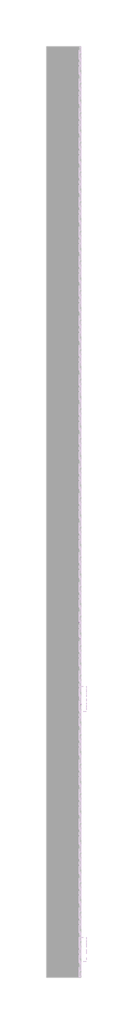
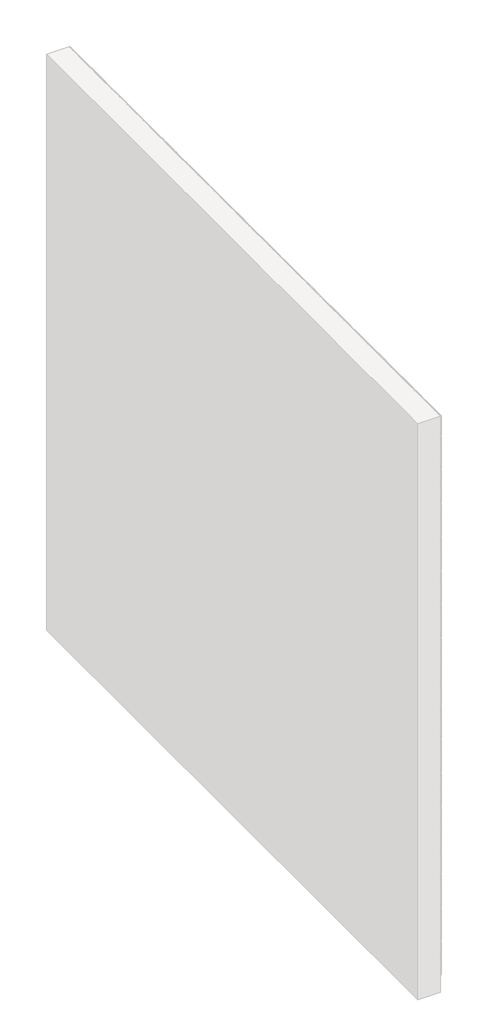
# One storey, part 82 of 121: 145 proxies.
"""IFC4 building model written with IfcOpenShell, lengths in millimetres."""

from ifc_helpers import new_model, si_unit, origin, place, context, project, spatial, transform, mapped, element, save
from components import generic_models_b2b2c5c1, generic_models_9bf73f6f, generic_models_5d175859

model = new_model("IFC4")

# Units and contexts
model_context = context("Model", 3, world=origin())
ifc_project = project(units=[si_unit("LENGTHUNIT", "METRE", prefix="MILLI")], contexts=[model_context])

# Site, building, storey
site = spatial("IfcSite", under=ifc_project)
building = spatial("IfcBuilding", under=site)
storey = spatial("IfcBuildingStorey", under=building, Name="PORTOBELLO - SHOWROOM", Elevation=0.0)

# Proxies
placement = place(None, origin())
generic_models_shape = generic_models_b2b2c5c1(model_context)
element("IfcBuildingElementProxy", 1, Name="PBSHOP - CUBICA PISTACHE 4,8X8,3 : CUBICA PISTACHE - POSIÇÃO 01", ObjectType="PBSHOP - CUBICA PISTACHE 4,8X8,3 : CUBICA PISTACHE - POSIÇÃO 01", at=placement, inside=storey, context=model_context, shape_type="MappedRepresentation", body=[
    mapped(generic_models_shape, transform((150369.5341846, 13069.0655533, 2249.5920413), x_axis=(0.0, 1.0, 0.0), y_axis=(0.0, 0.0, 1.0), z_axis=(1.0, 0.0, 0.0))),
])
element("IfcBuildingElementProxy", 2, Name="PBSHOP - CUBICA PISTACHE 4,8X8,3 : CUBICA PISTACHE - POSIÇÃO 01", ObjectType="PBSHOP - CUBICA PISTACHE 4,8X8,3 : CUBICA PISTACHE - POSIÇÃO 01", at=placement, inside=storey, context=model_context, shape_type="MappedRepresentation", body=[
    mapped(generic_models_shape, transform((150369.5341846, 13159.9048225, 2249.5920413), x_axis=(0.0, 1.0, 0.0), y_axis=(0.0, 0.0, 1.0), z_axis=(1.0, 0.0, 0.0))),
])
element("IfcBuildingElementProxy", 3, Name="PBSHOP - CUBICA PISTACHE 4,8X8,3 : CUBICA PISTACHE - POSIÇÃO 01", ObjectType="PBSHOP - CUBICA PISTACHE 4,8X8,3 : CUBICA PISTACHE - POSIÇÃO 01", at=placement, inside=storey, context=model_context, shape_type="MappedRepresentation", body=[
    mapped(generic_models_shape, transform((150369.5341846, 13250.7440918, 2249.5920413), x_axis=(0.0, 1.0, 0.0), y_axis=(0.0, 0.0, 1.0), z_axis=(1.0, 0.0, 0.0))),
])
element("IfcBuildingElementProxy", 4, Name="PBSHOP - CUBICA PISTACHE 4,8X8,3 : CUBICA PISTACHE - POSIÇÃO 01", ObjectType="PBSHOP - CUBICA PISTACHE 4,8X8,3 : CUBICA PISTACHE - POSIÇÃO 01", at=placement, inside=storey, context=model_context, shape_type="MappedRepresentation", body=[
    mapped(generic_models_shape, transform((150369.5341846, 13341.583361, 2249.5920413), x_axis=(0.0, 1.0, 0.0), y_axis=(0.0, 0.0, 1.0), z_axis=(1.0, 0.0, 0.0))),
])
element("IfcBuildingElementProxy", 5, Name="PBSHOP - CUBICA PISTACHE 4,8X8,3 : CUBICA PISTACHE - POSIÇÃO 01", ObjectType="PBSHOP - CUBICA PISTACHE 4,8X8,3 : CUBICA PISTACHE - POSIÇÃO 01", at=placement, inside=storey, context=model_context, shape_type="MappedRepresentation", body=[
    mapped(generic_models_shape, transform((150369.5341846, 13432.4226303, 2249.5920413), x_axis=(0.0, 1.0, 0.0), y_axis=(0.0, 0.0, 1.0), z_axis=(1.0, 0.0, 0.0))),
])
element("IfcBuildingElementProxy", 6, Name="PBSHOP - CUBICA PISTACHE 4,8X8,3 : CUBICA PISTACHE - POSIÇÃO 01", ObjectType="PBSHOP - CUBICA PISTACHE 4,8X8,3 : CUBICA PISTACHE - POSIÇÃO 01", at=placement, inside=storey, context=model_context, shape_type="MappedRepresentation", body=[
    mapped(generic_models_shape, transform((150369.5341846, 13523.2618995, 2249.5920413), x_axis=(0.0, 1.0, 0.0), y_axis=(0.0, 0.0, 1.0), z_axis=(1.0, 0.0, 0.0))),
])
element("IfcBuildingElementProxy", 7, Name="PBSHOP - CUBICA PISTACHE 4,8X8,3 : CUBICA PISTACHE - POSIÇÃO 01", ObjectType="PBSHOP - CUBICA PISTACHE 4,8X8,3 : CUBICA PISTACHE - POSIÇÃO 01", at=placement, inside=storey, context=model_context, shape_type="MappedRepresentation", body=[
    mapped(generic_models_shape, transform((150369.5341846, 13614.1011688, 2249.5920413), x_axis=(0.0, 1.0, 0.0), y_axis=(0.0, 0.0, 1.0), z_axis=(1.0, 0.0, 0.0))),
])
element("IfcBuildingElementProxy", 8, Name="PBSHOP - CUBICA PISTACHE 4,8X8,3 : CUBICA PISTACHE - POSIÇÃO 01", ObjectType="PBSHOP - CUBICA PISTACHE 4,8X8,3 : CUBICA PISTACHE - POSIÇÃO 01", at=placement, inside=storey, context=model_context, shape_type="MappedRepresentation", body=[
    mapped(generic_models_shape, transform((150369.5341846, 13704.940438, 2249.5920413), x_axis=(0.0, 1.0, 0.0), y_axis=(0.0, 0.0, 1.0), z_axis=(1.0, 0.0, 0.0))),
])
element("IfcBuildingElementProxy", 9, Name="PBSHOP - CUBICA PISTACHE 4,8X8,3 : CUBICA PISTACHE - POSIÇÃO 01", ObjectType="PBSHOP - CUBICA PISTACHE 4,8X8,3 : CUBICA PISTACHE - POSIÇÃO 01", at=placement, inside=storey, context=model_context, shape_type="MappedRepresentation", body=[
    mapped(generic_models_shape, transform((150369.5341846, 13795.7797073, 2249.5920413), x_axis=(0.0, 1.0, 0.0), y_axis=(0.0, 0.0, 1.0), z_axis=(1.0, 0.0, 0.0))),
])
element("IfcBuildingElementProxy", 10, Name="PBSHOP - CUBICA PISTACHE 4,8X8,3 : CUBICA PISTACHE - POSIÇÃO 01", ObjectType="PBSHOP - CUBICA PISTACHE 4,8X8,3 : CUBICA PISTACHE - POSIÇÃO 01", at=placement, inside=storey, context=model_context, shape_type="MappedRepresentation", body=[
    mapped(generic_models_shape, transform((150369.5341846, 13886.6189765, 2249.5920413), x_axis=(0.0, 1.0, 0.0), y_axis=(0.0, 0.0, 1.0), z_axis=(1.0, 0.0, 0.0))),
])
element("IfcBuildingElementProxy", 11, Name="PBSHOP - CUBICA PISTACHE 4,8X8,3 : CUBICA PISTACHE - POSIÇÃO 01", ObjectType="PBSHOP - CUBICA PISTACHE 4,8X8,3 : CUBICA PISTACHE - POSIÇÃO 01", at=placement, inside=storey, context=model_context, shape_type="MappedRepresentation", body=[
    mapped(generic_models_shape, transform((150369.5341846, 13977.4582457, 2249.5920413), x_axis=(0.0, 1.0, 0.0), y_axis=(0.0, 0.0, 1.0), z_axis=(1.0, 0.0, 0.0))),
])
element("IfcBuildingElementProxy", 12, Name="PBSHOP - CUBICA PISTACHE 4,8X8,3 : CUBICA PISTACHE - POSIÇÃO 01", ObjectType="PBSHOP - CUBICA PISTACHE 4,8X8,3 : CUBICA PISTACHE - POSIÇÃO 01", at=placement, inside=storey, context=model_context, shape_type="MappedRepresentation", body=[
    mapped(generic_models_shape, transform((150369.5341846, 13023.6459187, 2328.5266797), x_axis=(0.0, 1.0, 0.0), y_axis=(0.0, 0.0, 1.0), z_axis=(1.0, 0.0, 0.0))),
])
element("IfcBuildingElementProxy", 13, Name="PBSHOP - CUBICA PISTACHE 4,8X8,3 : CUBICA PISTACHE - POSIÇÃO 01", ObjectType="PBSHOP - CUBICA PISTACHE 4,8X8,3 : CUBICA PISTACHE - POSIÇÃO 01", at=placement, inside=storey, context=model_context, shape_type="MappedRepresentation", body=[
    mapped(generic_models_shape, transform((150369.5341846, 13114.4851879, 2328.5266797), x_axis=(0.0, 1.0, 0.0), y_axis=(0.0, 0.0, 1.0), z_axis=(1.0, 0.0, 0.0))),
])
element("IfcBuildingElementProxy", 14, Name="PBSHOP - CUBICA PISTACHE 4,8X8,3 : CUBICA PISTACHE - POSIÇÃO 01", ObjectType="PBSHOP - CUBICA PISTACHE 4,8X8,3 : CUBICA PISTACHE - POSIÇÃO 01", at=placement, inside=storey, context=model_context, shape_type="MappedRepresentation", body=[
    mapped(generic_models_shape, transform((150369.5341846, 13205.3244572, 2328.5266797), x_axis=(0.0, 1.0, 0.0), y_axis=(0.0, 0.0, 1.0), z_axis=(1.0, 0.0, 0.0))),
])
element("IfcBuildingElementProxy", 15, Name="PBSHOP - CUBICA PISTACHE 4,8X8,3 : CUBICA PISTACHE - POSIÇÃO 01", ObjectType="PBSHOP - CUBICA PISTACHE 4,8X8,3 : CUBICA PISTACHE - POSIÇÃO 01", at=placement, inside=storey, context=model_context, shape_type="MappedRepresentation", body=[
    mapped(generic_models_shape, transform((150369.5341846, 13296.1637264, 2328.5266797), x_axis=(0.0, 1.0, 0.0), y_axis=(0.0, 0.0, 1.0), z_axis=(1.0, 0.0, 0.0))),
])
element("IfcBuildingElementProxy", 16, Name="PBSHOP - CUBICA PISTACHE 4,8X8,3 : CUBICA PISTACHE - POSIÇÃO 01", ObjectType="PBSHOP - CUBICA PISTACHE 4,8X8,3 : CUBICA PISTACHE - POSIÇÃO 01", at=placement, inside=storey, context=model_context, shape_type="MappedRepresentation", body=[
    mapped(generic_models_shape, transform((150369.5341846, 13387.0029957, 2328.5266797), x_axis=(0.0, 1.0, 0.0), y_axis=(0.0, 0.0, 1.0), z_axis=(1.0, 0.0, 0.0))),
])
element("IfcBuildingElementProxy", 17, Name="PBSHOP - CUBICA PISTACHE 4,8X8,3 : CUBICA PISTACHE - POSIÇÃO 01", ObjectType="PBSHOP - CUBICA PISTACHE 4,8X8,3 : CUBICA PISTACHE - POSIÇÃO 01", at=placement, inside=storey, context=model_context, shape_type="MappedRepresentation", body=[
    mapped(generic_models_shape, transform((150369.5341846, 13477.8422649, 2328.5266797), x_axis=(0.0, 1.0, 0.0), y_axis=(0.0, 0.0, 1.0), z_axis=(1.0, 0.0, 0.0))),
])
element("IfcBuildingElementProxy", 18, Name="PBSHOP - CUBICA PISTACHE 4,8X8,3 : CUBICA PISTACHE - POSIÇÃO 01", ObjectType="PBSHOP - CUBICA PISTACHE 4,8X8,3 : CUBICA PISTACHE - POSIÇÃO 01", at=placement, inside=storey, context=model_context, shape_type="MappedRepresentation", body=[
    mapped(generic_models_shape, transform((150369.5341846, 13568.6815341, 2328.5266797), x_axis=(0.0, 1.0, 0.0), y_axis=(0.0, 0.0, 1.0), z_axis=(1.0, 0.0, 0.0))),
])
element("IfcBuildingElementProxy", 19, Name="PBSHOP - CUBICA PISTACHE 4,8X8,3 : CUBICA PISTACHE - POSIÇÃO 01", ObjectType="PBSHOP - CUBICA PISTACHE 4,8X8,3 : CUBICA PISTACHE - POSIÇÃO 01", at=placement, inside=storey, context=model_context, shape_type="MappedRepresentation", body=[
    mapped(generic_models_shape, transform((150369.5341846, 13659.5208034, 2328.5266797), x_axis=(0.0, 1.0, 0.0), y_axis=(0.0, 0.0, 1.0), z_axis=(1.0, 0.0, 0.0))),
])
element("IfcBuildingElementProxy", 20, Name="PBSHOP - CUBICA PISTACHE 4,8X8,3 : CUBICA PISTACHE - POSIÇÃO 01", ObjectType="PBSHOP - CUBICA PISTACHE 4,8X8,3 : CUBICA PISTACHE - POSIÇÃO 01", at=placement, inside=storey, context=model_context, shape_type="MappedRepresentation", body=[
    mapped(generic_models_shape, transform((150369.5341846, 13750.3600726, 2328.5266797), x_axis=(0.0, 1.0, 0.0), y_axis=(0.0, 0.0, 1.0), z_axis=(1.0, 0.0, 0.0))),
])
element("IfcBuildingElementProxy", 21, Name="PBSHOP - CUBICA PISTACHE 4,8X8,3 : CUBICA PISTACHE - POSIÇÃO 01", ObjectType="PBSHOP - CUBICA PISTACHE 4,8X8,3 : CUBICA PISTACHE - POSIÇÃO 01", at=placement, inside=storey, context=model_context, shape_type="MappedRepresentation", body=[
    mapped(generic_models_shape, transform((150369.5341846, 13841.1993419, 2328.5266797), x_axis=(0.0, 1.0, 0.0), y_axis=(0.0, 0.0, 1.0), z_axis=(1.0, 0.0, 0.0))),
])
element("IfcBuildingElementProxy", 22, Name="PBSHOP - CUBICA PISTACHE 4,8X8,3 : CUBICA PISTACHE - POSIÇÃO 01", ObjectType="PBSHOP - CUBICA PISTACHE 4,8X8,3 : CUBICA PISTACHE - POSIÇÃO 01", at=placement, inside=storey, context=model_context, shape_type="MappedRepresentation", body=[
    mapped(generic_models_shape, transform((150369.5341846, 13932.0386111, 2328.5266797), x_axis=(0.0, 1.0, 0.0), y_axis=(0.0, 0.0, 1.0), z_axis=(1.0, 0.0, 0.0))),
])
element("IfcBuildingElementProxy", 23, Name="PBSHOP - CUBICA PISTACHE 4,8X8,3 : CUBICA PISTACHE - POSIÇÃO 01", ObjectType="PBSHOP - CUBICA PISTACHE 4,8X8,3 : CUBICA PISTACHE - POSIÇÃO 01", at=placement, inside=storey, context=model_context, shape_type="MappedRepresentation", body=[
    mapped(generic_models_shape, transform((150369.5341846, 13069.0655533, 2407.461318), x_axis=(0.0, 1.0, 0.0), y_axis=(0.0, 0.0, 1.0), z_axis=(1.0, 0.0, 0.0))),
])
element("IfcBuildingElementProxy", 24, Name="PBSHOP - CUBICA PISTACHE 4,8X8,3 : CUBICA PISTACHE - POSIÇÃO 01", ObjectType="PBSHOP - CUBICA PISTACHE 4,8X8,3 : CUBICA PISTACHE - POSIÇÃO 01", at=placement, inside=storey, context=model_context, shape_type="MappedRepresentation", body=[
    mapped(generic_models_shape, transform((150369.5341846, 13159.9048225, 2407.461318), x_axis=(0.0, 1.0, 0.0), y_axis=(0.0, 0.0, 1.0), z_axis=(1.0, 0.0, 0.0))),
])
element("IfcBuildingElementProxy", 25, Name="PBSHOP - CUBICA PISTACHE 4,8X8,3 : CUBICA PISTACHE - POSIÇÃO 01", ObjectType="PBSHOP - CUBICA PISTACHE 4,8X8,3 : CUBICA PISTACHE - POSIÇÃO 01", at=placement, inside=storey, context=model_context, shape_type="MappedRepresentation", body=[
    mapped(generic_models_shape, transform((150369.5341846, 13250.7440918, 2407.461318), x_axis=(0.0, 1.0, 0.0), y_axis=(0.0, 0.0, 1.0), z_axis=(1.0, 0.0, 0.0))),
])
element("IfcBuildingElementProxy", 26, Name="PBSHOP - CUBICA PISTACHE 4,8X8,3 : CUBICA PISTACHE - POSIÇÃO 01", ObjectType="PBSHOP - CUBICA PISTACHE 4,8X8,3 : CUBICA PISTACHE - POSIÇÃO 01", at=placement, inside=storey, context=model_context, shape_type="MappedRepresentation", body=[
    mapped(generic_models_shape, transform((150369.5341846, 13341.583361, 2407.461318), x_axis=(0.0, 1.0, 0.0), y_axis=(0.0, 0.0, 1.0), z_axis=(1.0, 0.0, 0.0))),
])
element("IfcBuildingElementProxy", 27, Name="PBSHOP - CUBICA PISTACHE 4,8X8,3 : CUBICA PISTACHE - POSIÇÃO 01", ObjectType="PBSHOP - CUBICA PISTACHE 4,8X8,3 : CUBICA PISTACHE - POSIÇÃO 01", at=placement, inside=storey, context=model_context, shape_type="MappedRepresentation", body=[
    mapped(generic_models_shape, transform((150369.5341846, 13432.4226303, 2407.461318), x_axis=(0.0, 1.0, 0.0), y_axis=(0.0, 0.0, 1.0), z_axis=(1.0, 0.0, 0.0))),
])
element("IfcBuildingElementProxy", 28, Name="PBSHOP - CUBICA PISTACHE 4,8X8,3 : CUBICA PISTACHE - POSIÇÃO 01", ObjectType="PBSHOP - CUBICA PISTACHE 4,8X8,3 : CUBICA PISTACHE - POSIÇÃO 01", at=placement, inside=storey, context=model_context, shape_type="MappedRepresentation", body=[
    mapped(generic_models_shape, transform((150369.5341846, 13523.2618995, 2407.461318), x_axis=(0.0, 1.0, 0.0), y_axis=(0.0, 0.0, 1.0), z_axis=(1.0, 0.0, 0.0))),
])
element("IfcBuildingElementProxy", 29, Name="PBSHOP - CUBICA PISTACHE 4,8X8,3 : CUBICA PISTACHE - POSIÇÃO 01", ObjectType="PBSHOP - CUBICA PISTACHE 4,8X8,3 : CUBICA PISTACHE - POSIÇÃO 01", at=placement, inside=storey, context=model_context, shape_type="MappedRepresentation", body=[
    mapped(generic_models_shape, transform((150369.5341846, 13614.1011688, 2407.461318), x_axis=(0.0, 1.0, 0.0), y_axis=(0.0, 0.0, 1.0), z_axis=(1.0, 0.0, 0.0))),
])
element("IfcBuildingElementProxy", 30, Name="PBSHOP - CUBICA PISTACHE 4,8X8,3 : CUBICA PISTACHE - POSIÇÃO 01", ObjectType="PBSHOP - CUBICA PISTACHE 4,8X8,3 : CUBICA PISTACHE - POSIÇÃO 01", at=placement, inside=storey, context=model_context, shape_type="MappedRepresentation", body=[
    mapped(generic_models_shape, transform((150369.5341846, 13704.940438, 2407.461318), x_axis=(0.0, 1.0, 0.0), y_axis=(0.0, 0.0, 1.0), z_axis=(1.0, 0.0, 0.0))),
])
element("IfcBuildingElementProxy", 31, Name="PBSHOP - CUBICA PISTACHE 4,8X8,3 : CUBICA PISTACHE - POSIÇÃO 01", ObjectType="PBSHOP - CUBICA PISTACHE 4,8X8,3 : CUBICA PISTACHE - POSIÇÃO 01", at=placement, inside=storey, context=model_context, shape_type="MappedRepresentation", body=[
    mapped(generic_models_shape, transform((150369.5341846, 13795.7797073, 2407.461318), x_axis=(0.0, 1.0, 0.0), y_axis=(0.0, 0.0, 1.0), z_axis=(1.0, 0.0, 0.0))),
])
element("IfcBuildingElementProxy", 32, Name="PBSHOP - CUBICA PISTACHE 4,8X8,3 : CUBICA PISTACHE - POSIÇÃO 01", ObjectType="PBSHOP - CUBICA PISTACHE 4,8X8,3 : CUBICA PISTACHE - POSIÇÃO 01", at=placement, inside=storey, context=model_context, shape_type="MappedRepresentation", body=[
    mapped(generic_models_shape, transform((150369.5341846, 13886.6189765, 2407.461318), x_axis=(0.0, 1.0, 0.0), y_axis=(0.0, 0.0, 1.0), z_axis=(1.0, 0.0, 0.0))),
])
element("IfcBuildingElementProxy", 33, Name="PBSHOP - CUBICA PISTACHE 4,8X8,3 : CUBICA PISTACHE - POSIÇÃO 01", ObjectType="PBSHOP - CUBICA PISTACHE 4,8X8,3 : CUBICA PISTACHE - POSIÇÃO 01", at=placement, inside=storey, context=model_context, shape_type="MappedRepresentation", body=[
    mapped(generic_models_shape, transform((150369.5341846, 13977.4582457, 2407.461318), x_axis=(0.0, 1.0, 0.0), y_axis=(0.0, 0.0, 1.0), z_axis=(1.0, 0.0, 0.0))),
])
element("IfcBuildingElementProxy", 34, Name="PBSHOP - CUBICA PISTACHE 4,8X8,3 : CUBICA PISTACHE - POSIÇÃO 01", ObjectType="PBSHOP - CUBICA PISTACHE 4,8X8,3 : CUBICA PISTACHE - POSIÇÃO 01", at=placement, inside=storey, context=model_context, shape_type="MappedRepresentation", body=[
    mapped(generic_models_shape, transform((150369.5341846, 13023.6459187, 2486.3959564), x_axis=(0.0, 1.0, 0.0), y_axis=(0.0, 0.0, 1.0), z_axis=(1.0, 0.0, 0.0))),
])
element("IfcBuildingElementProxy", 35, Name="PBSHOP - CUBICA PISTACHE 4,8X8,3 : CUBICA PISTACHE - POSIÇÃO 01", ObjectType="PBSHOP - CUBICA PISTACHE 4,8X8,3 : CUBICA PISTACHE - POSIÇÃO 01", at=placement, inside=storey, context=model_context, shape_type="MappedRepresentation", body=[
    mapped(generic_models_shape, transform((150369.5341846, 13114.4851879, 2486.3959564), x_axis=(0.0, 1.0, 0.0), y_axis=(0.0, 0.0, 1.0), z_axis=(1.0, 0.0, 0.0))),
])
element("IfcBuildingElementProxy", 36, Name="PBSHOP - CUBICA PISTACHE 4,8X8,3 : CUBICA PISTACHE - POSIÇÃO 01", ObjectType="PBSHOP - CUBICA PISTACHE 4,8X8,3 : CUBICA PISTACHE - POSIÇÃO 01", at=placement, inside=storey, context=model_context, shape_type="MappedRepresentation", body=[
    mapped(generic_models_shape, transform((150369.5341846, 13205.3244572, 2486.3959564), x_axis=(0.0, 1.0, 0.0), y_axis=(0.0, 0.0, 1.0), z_axis=(1.0, 0.0, 0.0))),
])
element("IfcBuildingElementProxy", 37, Name="PBSHOP - CUBICA PISTACHE 4,8X8,3 : CUBICA PISTACHE - POSIÇÃO 01", ObjectType="PBSHOP - CUBICA PISTACHE 4,8X8,3 : CUBICA PISTACHE - POSIÇÃO 01", at=placement, inside=storey, context=model_context, shape_type="MappedRepresentation", body=[
    mapped(generic_models_shape, transform((150369.5341846, 13296.1637264, 2486.3959564), x_axis=(0.0, 1.0, 0.0), y_axis=(0.0, 0.0, 1.0), z_axis=(1.0, 0.0, 0.0))),
])
element("IfcBuildingElementProxy", 38, Name="PBSHOP - CUBICA PISTACHE 4,8X8,3 : CUBICA PISTACHE - POSIÇÃO 01", ObjectType="PBSHOP - CUBICA PISTACHE 4,8X8,3 : CUBICA PISTACHE - POSIÇÃO 01", at=placement, inside=storey, context=model_context, shape_type="MappedRepresentation", body=[
    mapped(generic_models_shape, transform((150369.5341846, 13387.0029957, 2486.3959564), x_axis=(0.0, 1.0, 0.0), y_axis=(0.0, 0.0, 1.0), z_axis=(1.0, 0.0, 0.0))),
])
element("IfcBuildingElementProxy", 39, Name="PBSHOP - CUBICA PISTACHE 4,8X8,3 : CUBICA PISTACHE - POSIÇÃO 01", ObjectType="PBSHOP - CUBICA PISTACHE 4,8X8,3 : CUBICA PISTACHE - POSIÇÃO 01", at=placement, inside=storey, context=model_context, shape_type="MappedRepresentation", body=[
    mapped(generic_models_shape, transform((150369.5341846, 13477.8422649, 2486.3959564), x_axis=(0.0, 1.0, 0.0), y_axis=(0.0, 0.0, 1.0), z_axis=(1.0, 0.0, 0.0))),
])
element("IfcBuildingElementProxy", 40, Name="PBSHOP - CUBICA PISTACHE 4,8X8,3 : CUBICA PISTACHE - POSIÇÃO 01", ObjectType="PBSHOP - CUBICA PISTACHE 4,8X8,3 : CUBICA PISTACHE - POSIÇÃO 01", at=placement, inside=storey, context=model_context, shape_type="MappedRepresentation", body=[
    mapped(generic_models_shape, transform((150369.5341846, 13568.6815341, 2486.3959564), x_axis=(0.0, 1.0, 0.0), y_axis=(0.0, 0.0, 1.0), z_axis=(1.0, 0.0, 0.0))),
])
element("IfcBuildingElementProxy", 41, Name="PBSHOP - CUBICA PISTACHE 4,8X8,3 : CUBICA PISTACHE - POSIÇÃO 01", ObjectType="PBSHOP - CUBICA PISTACHE 4,8X8,3 : CUBICA PISTACHE - POSIÇÃO 01", at=placement, inside=storey, context=model_context, shape_type="MappedRepresentation", body=[
    mapped(generic_models_shape, transform((150369.5341846, 13659.5208034, 2486.3959564), x_axis=(0.0, 1.0, 0.0), y_axis=(0.0, 0.0, 1.0), z_axis=(1.0, 0.0, 0.0))),
])
element("IfcBuildingElementProxy", 42, Name="PBSHOP - CUBICA PISTACHE 4,8X8,3 : CUBICA PISTACHE - POSIÇÃO 01", ObjectType="PBSHOP - CUBICA PISTACHE 4,8X8,3 : CUBICA PISTACHE - POSIÇÃO 01", at=placement, inside=storey, context=model_context, shape_type="MappedRepresentation", body=[
    mapped(generic_models_shape, transform((150369.5341846, 13750.3600726, 2486.3959564), x_axis=(0.0, 1.0, 0.0), y_axis=(0.0, 0.0, 1.0), z_axis=(1.0, 0.0, 0.0))),
])
element("IfcBuildingElementProxy", 43, Name="PBSHOP - CUBICA PISTACHE 4,8X8,3 : CUBICA PISTACHE - POSIÇÃO 01", ObjectType="PBSHOP - CUBICA PISTACHE 4,8X8,3 : CUBICA PISTACHE - POSIÇÃO 01", at=placement, inside=storey, context=model_context, shape_type="MappedRepresentation", body=[
    mapped(generic_models_shape, transform((150369.5341846, 13841.1993419, 2486.3959564), x_axis=(0.0, 1.0, 0.0), y_axis=(0.0, 0.0, 1.0), z_axis=(1.0, 0.0, 0.0))),
])
element("IfcBuildingElementProxy", 44, Name="PBSHOP - CUBICA PISTACHE 4,8X8,3 : CUBICA PISTACHE - POSIÇÃO 01", ObjectType="PBSHOP - CUBICA PISTACHE 4,8X8,3 : CUBICA PISTACHE - POSIÇÃO 01", at=placement, inside=storey, context=model_context, shape_type="MappedRepresentation", body=[
    mapped(generic_models_shape, transform((150369.5341846, 13932.0386111, 2486.3959564), x_axis=(0.0, 1.0, 0.0), y_axis=(0.0, 0.0, 1.0), z_axis=(1.0, 0.0, 0.0))),
])
element("IfcBuildingElementProxy", 45, Name="PBSHOP - CUBICA PISTACHE 4,8X8,3 : CUBICA PISTACHE - POSIÇÃO 01", ObjectType="PBSHOP - CUBICA PISTACHE 4,8X8,3 : CUBICA PISTACHE - POSIÇÃO 01", at=placement, inside=storey, context=model_context, shape_type="MappedRepresentation", body=[
    mapped(generic_models_shape, transform((150369.5341846, 13069.0655533, 2565.3305948), x_axis=(0.0, 1.0, 0.0), y_axis=(0.0, 0.0, 1.0), z_axis=(1.0, 0.0, 0.0))),
])
element("IfcBuildingElementProxy", 46, Name="PBSHOP - CUBICA PISTACHE 4,8X8,3 : CUBICA PISTACHE - POSIÇÃO 01", ObjectType="PBSHOP - CUBICA PISTACHE 4,8X8,3 : CUBICA PISTACHE - POSIÇÃO 01", at=placement, inside=storey, context=model_context, shape_type="MappedRepresentation", body=[
    mapped(generic_models_shape, transform((150369.5341846, 13159.9048225, 2565.3305948), x_axis=(0.0, 1.0, 0.0), y_axis=(0.0, 0.0, 1.0), z_axis=(1.0, 0.0, 0.0))),
])
element("IfcBuildingElementProxy", 47, Name="PBSHOP - CUBICA PISTACHE 4,8X8,3 : CUBICA PISTACHE - POSIÇÃO 01", ObjectType="PBSHOP - CUBICA PISTACHE 4,8X8,3 : CUBICA PISTACHE - POSIÇÃO 01", at=placement, inside=storey, context=model_context, shape_type="MappedRepresentation", body=[
    mapped(generic_models_shape, transform((150369.5341846, 13250.7440918, 2565.3305948), x_axis=(0.0, 1.0, 0.0), y_axis=(0.0, 0.0, 1.0), z_axis=(1.0, 0.0, 0.0))),
])
element("IfcBuildingElementProxy", 48, Name="PBSHOP - CUBICA PISTACHE 4,8X8,3 : CUBICA PISTACHE - POSIÇÃO 01", ObjectType="PBSHOP - CUBICA PISTACHE 4,8X8,3 : CUBICA PISTACHE - POSIÇÃO 01", at=placement, inside=storey, context=model_context, shape_type="MappedRepresentation", body=[
    mapped(generic_models_shape, transform((150369.5341846, 13341.583361, 2565.3305948), x_axis=(0.0, 1.0, 0.0), y_axis=(0.0, 0.0, 1.0), z_axis=(1.0, 0.0, 0.0))),
])
element("IfcBuildingElementProxy", 49, Name="PBSHOP - CUBICA PISTACHE 4,8X8,3 : CUBICA PISTACHE - POSIÇÃO 01", ObjectType="PBSHOP - CUBICA PISTACHE 4,8X8,3 : CUBICA PISTACHE - POSIÇÃO 01", at=placement, inside=storey, context=model_context, shape_type="MappedRepresentation", body=[
    mapped(generic_models_shape, transform((150369.5341846, 13432.4226303, 2565.3305948), x_axis=(0.0, 1.0, 0.0), y_axis=(0.0, 0.0, 1.0), z_axis=(1.0, 0.0, 0.0))),
])
generic_models_2_shape = generic_models_9bf73f6f(model_context)
element("IfcBuildingElementProxy", 50, Name="PBSHOP - CUBICA PISTACHE 4,8X8,3 : CUBICA PISTACHE - POSIÇÃO 03", ObjectType="PBSHOP - CUBICA PISTACHE 4,8X8,3 : CUBICA PISTACHE - POSIÇÃO 03", at=placement, inside=storey, context=model_context, shape_type="MappedRepresentation", body=[
    mapped(generic_models_2_shape, transform((150369.5341846, 13818.4916837, 2131.1488733), x_axis=(0.0, 1.0, 0.0), y_axis=(0.0, 0.0, 1.0), z_axis=(1.0, 0.0, 0.0))),
])
element("IfcBuildingElementProxy", 51, Name="PBSHOP - CUBICA PISTACHE 4,8X8,3 : CUBICA PISTACHE - POSIÇÃO 03", ObjectType="PBSHOP - CUBICA PISTACHE 4,8X8,3 : CUBICA PISTACHE - POSIÇÃO 03", at=placement, inside=storey, context=model_context, shape_type="MappedRepresentation", body=[
    mapped(generic_models_2_shape, transform((150369.5341846, 13909.330953, 2131.1488733), x_axis=(0.0, 1.0, 0.0), y_axis=(0.0, 0.0, 1.0), z_axis=(1.0, 0.0, 0.0))),
])
element("IfcBuildingElementProxy", 52, Name="PBSHOP - CUBICA PISTACHE 4,8X8,3 : CUBICA PISTACHE - POSIÇÃO 03", ObjectType="PBSHOP - CUBICA PISTACHE 4,8X8,3 : CUBICA PISTACHE - POSIÇÃO 03", at=placement, inside=storey, context=model_context, shape_type="MappedRepresentation", body=[
    mapped(generic_models_2_shape, transform((150369.5341846, 13046.3578952, 2210.0835117), x_axis=(0.0, 1.0, 0.0), y_axis=(0.0, 0.0, 1.0), z_axis=(1.0, 0.0, 0.0))),
])
element("IfcBuildingElementProxy", 53, Name="PBSHOP - CUBICA PISTACHE 4,8X8,3 : CUBICA PISTACHE - POSIÇÃO 03", ObjectType="PBSHOP - CUBICA PISTACHE 4,8X8,3 : CUBICA PISTACHE - POSIÇÃO 03", at=placement, inside=storey, context=model_context, shape_type="MappedRepresentation", body=[
    mapped(generic_models_2_shape, transform((150369.5341846, 13137.1971644, 2210.0835117), x_axis=(0.0, 1.0, 0.0), y_axis=(0.0, 0.0, 1.0), z_axis=(1.0, 0.0, 0.0))),
])
element("IfcBuildingElementProxy", 54, Name="PBSHOP - CUBICA PISTACHE 4,8X8,3 : CUBICA PISTACHE - POSIÇÃO 03", ObjectType="PBSHOP - CUBICA PISTACHE 4,8X8,3 : CUBICA PISTACHE - POSIÇÃO 03", at=placement, inside=storey, context=model_context, shape_type="MappedRepresentation", body=[
    mapped(generic_models_2_shape, transform((150369.5341846, 13228.0364336, 2210.0835117), x_axis=(0.0, 1.0, 0.0), y_axis=(0.0, 0.0, 1.0), z_axis=(1.0, 0.0, 0.0))),
])
element("IfcBuildingElementProxy", 55, Name="PBSHOP - CUBICA PISTACHE 4,8X8,3 : CUBICA PISTACHE - POSIÇÃO 03", ObjectType="PBSHOP - CUBICA PISTACHE 4,8X8,3 : CUBICA PISTACHE - POSIÇÃO 03", at=placement, inside=storey, context=model_context, shape_type="MappedRepresentation", body=[
    mapped(generic_models_2_shape, transform((150369.5341846, 13318.8757029, 2210.0835117), x_axis=(0.0, 1.0, 0.0), y_axis=(0.0, 0.0, 1.0), z_axis=(1.0, 0.0, 0.0))),
])
element("IfcBuildingElementProxy", 56, Name="PBSHOP - CUBICA PISTACHE 4,8X8,3 : CUBICA PISTACHE - POSIÇÃO 03", ObjectType="PBSHOP - CUBICA PISTACHE 4,8X8,3 : CUBICA PISTACHE - POSIÇÃO 03", at=placement, inside=storey, context=model_context, shape_type="MappedRepresentation", body=[
    mapped(generic_models_2_shape, transform((150369.5341846, 13409.7149721, 2210.0835117), x_axis=(0.0, 1.0, 0.0), y_axis=(0.0, 0.0, 1.0), z_axis=(1.0, 0.0, 0.0))),
])
element("IfcBuildingElementProxy", 57, Name="PBSHOP - CUBICA PISTACHE 4,8X8,3 : CUBICA PISTACHE - POSIÇÃO 03", ObjectType="PBSHOP - CUBICA PISTACHE 4,8X8,3 : CUBICA PISTACHE - POSIÇÃO 03", at=placement, inside=storey, context=model_context, shape_type="MappedRepresentation", body=[
    mapped(generic_models_2_shape, transform((150369.5341846, 13500.5542414, 2210.0835117), x_axis=(0.0, 1.0, 0.0), y_axis=(0.0, 0.0, 1.0), z_axis=(1.0, 0.0, 0.0))),
])
element("IfcBuildingElementProxy", 58, Name="PBSHOP - CUBICA PISTACHE 4,8X8,3 : CUBICA PISTACHE - POSIÇÃO 03", ObjectType="PBSHOP - CUBICA PISTACHE 4,8X8,3 : CUBICA PISTACHE - POSIÇÃO 03", at=placement, inside=storey, context=model_context, shape_type="MappedRepresentation", body=[
    mapped(generic_models_2_shape, transform((150369.5341846, 13591.3935106, 2210.0835117), x_axis=(0.0, 1.0, 0.0), y_axis=(0.0, 0.0, 1.0), z_axis=(1.0, 0.0, 0.0))),
])
element("IfcBuildingElementProxy", 59, Name="PBSHOP - CUBICA PISTACHE 4,8X8,3 : CUBICA PISTACHE - POSIÇÃO 03", ObjectType="PBSHOP - CUBICA PISTACHE 4,8X8,3 : CUBICA PISTACHE - POSIÇÃO 03", at=placement, inside=storey, context=model_context, shape_type="MappedRepresentation", body=[
    mapped(generic_models_2_shape, transform((150369.5341846, 13682.2327799, 2210.0835117), x_axis=(0.0, 1.0, 0.0), y_axis=(0.0, 0.0, 1.0), z_axis=(1.0, 0.0, 0.0))),
])
element("IfcBuildingElementProxy", 60, Name="PBSHOP - CUBICA PISTACHE 4,8X8,3 : CUBICA PISTACHE - POSIÇÃO 03", ObjectType="PBSHOP - CUBICA PISTACHE 4,8X8,3 : CUBICA PISTACHE - POSIÇÃO 03", at=placement, inside=storey, context=model_context, shape_type="MappedRepresentation", body=[
    mapped(generic_models_2_shape, transform((150369.5341846, 13773.0720491, 2210.0835117), x_axis=(0.0, 1.0, 0.0), y_axis=(0.0, 0.0, 1.0), z_axis=(1.0, 0.0, 0.0))),
])
element("IfcBuildingElementProxy", 61, Name="PBSHOP - CUBICA PISTACHE 4,8X8,3 : CUBICA PISTACHE - POSIÇÃO 03", ObjectType="PBSHOP - CUBICA PISTACHE 4,8X8,3 : CUBICA PISTACHE - POSIÇÃO 03", at=placement, inside=storey, context=model_context, shape_type="MappedRepresentation", body=[
    mapped(generic_models_2_shape, transform((150369.5341846, 13863.9113184, 2210.0835117), x_axis=(0.0, 1.0, 0.0), y_axis=(0.0, 0.0, 1.0), z_axis=(1.0, 0.0, 0.0))),
])
element("IfcBuildingElementProxy", 62, Name="PBSHOP - CUBICA PISTACHE 4,8X8,3 : CUBICA PISTACHE - POSIÇÃO 03", ObjectType="PBSHOP - CUBICA PISTACHE 4,8X8,3 : CUBICA PISTACHE - POSIÇÃO 03", at=placement, inside=storey, context=model_context, shape_type="MappedRepresentation", body=[
    mapped(generic_models_2_shape, transform((150369.5341846, 13954.7505876, 2210.0835117), x_axis=(0.0, 1.0, 0.0), y_axis=(0.0, 0.0, 1.0), z_axis=(1.0, 0.0, 0.0))),
])
element("IfcBuildingElementProxy", 63, Name="PBSHOP - CUBICA PISTACHE 4,8X8,3 : CUBICA PISTACHE - POSIÇÃO 03", ObjectType="PBSHOP - CUBICA PISTACHE 4,8X8,3 : CUBICA PISTACHE - POSIÇÃO 03", at=placement, inside=storey, context=model_context, shape_type="MappedRepresentation", body=[
    mapped(generic_models_2_shape, transform((150369.5341846, 13000.9382605, 2289.0181501), x_axis=(0.0, 1.0, 0.0), y_axis=(0.0, 0.0, 1.0), z_axis=(1.0, 0.0, 0.0))),
])
element("IfcBuildingElementProxy", 64, Name="PBSHOP - CUBICA PISTACHE 4,8X8,3 : CUBICA PISTACHE - POSIÇÃO 03", ObjectType="PBSHOP - CUBICA PISTACHE 4,8X8,3 : CUBICA PISTACHE - POSIÇÃO 03", at=placement, inside=storey, context=model_context, shape_type="MappedRepresentation", body=[
    mapped(generic_models_2_shape, transform((150369.5341846, 13091.7775298, 2289.0181501), x_axis=(0.0, 1.0, 0.0), y_axis=(0.0, 0.0, 1.0), z_axis=(1.0, 0.0, 0.0))),
])
element("IfcBuildingElementProxy", 65, Name="PBSHOP - CUBICA PISTACHE 4,8X8,3 : CUBICA PISTACHE - POSIÇÃO 03", ObjectType="PBSHOP - CUBICA PISTACHE 4,8X8,3 : CUBICA PISTACHE - POSIÇÃO 03", at=placement, inside=storey, context=model_context, shape_type="MappedRepresentation", body=[
    mapped(generic_models_2_shape, transform((150369.5341846, 13182.616799, 2289.0181501), x_axis=(0.0, 1.0, 0.0), y_axis=(0.0, 0.0, 1.0), z_axis=(1.0, 0.0, 0.0))),
])
element("IfcBuildingElementProxy", 66, Name="PBSHOP - CUBICA PISTACHE 4,8X8,3 : CUBICA PISTACHE - POSIÇÃO 03", ObjectType="PBSHOP - CUBICA PISTACHE 4,8X8,3 : CUBICA PISTACHE - POSIÇÃO 03", at=placement, inside=storey, context=model_context, shape_type="MappedRepresentation", body=[
    mapped(generic_models_2_shape, transform((150369.5341846, 13273.4560683, 2289.0181501), x_axis=(0.0, 1.0, 0.0), y_axis=(0.0, 0.0, 1.0), z_axis=(1.0, 0.0, 0.0))),
])
element("IfcBuildingElementProxy", 67, Name="PBSHOP - CUBICA PISTACHE 4,8X8,3 : CUBICA PISTACHE - POSIÇÃO 03", ObjectType="PBSHOP - CUBICA PISTACHE 4,8X8,3 : CUBICA PISTACHE - POSIÇÃO 03", at=placement, inside=storey, context=model_context, shape_type="MappedRepresentation", body=[
    mapped(generic_models_2_shape, transform((150369.5341846, 13364.2953375, 2289.0181501), x_axis=(0.0, 1.0, 0.0), y_axis=(0.0, 0.0, 1.0), z_axis=(1.0, 0.0, 0.0))),
])
element("IfcBuildingElementProxy", 68, Name="PBSHOP - CUBICA PISTACHE 4,8X8,3 : CUBICA PISTACHE - POSIÇÃO 03", ObjectType="PBSHOP - CUBICA PISTACHE 4,8X8,3 : CUBICA PISTACHE - POSIÇÃO 03", at=placement, inside=storey, context=model_context, shape_type="MappedRepresentation", body=[
    mapped(generic_models_2_shape, transform((150369.5341846, 13455.1346068, 2289.0181501), x_axis=(0.0, 1.0, 0.0), y_axis=(0.0, 0.0, 1.0), z_axis=(1.0, 0.0, 0.0))),
])
element("IfcBuildingElementProxy", 69, Name="PBSHOP - CUBICA PISTACHE 4,8X8,3 : CUBICA PISTACHE - POSIÇÃO 03", ObjectType="PBSHOP - CUBICA PISTACHE 4,8X8,3 : CUBICA PISTACHE - POSIÇÃO 03", at=placement, inside=storey, context=model_context, shape_type="MappedRepresentation", body=[
    mapped(generic_models_2_shape, transform((150369.5341846, 13545.973876, 2289.0181501), x_axis=(0.0, 1.0, 0.0), y_axis=(0.0, 0.0, 1.0), z_axis=(1.0, 0.0, 0.0))),
])
element("IfcBuildingElementProxy", 70, Name="PBSHOP - CUBICA PISTACHE 4,8X8,3 : CUBICA PISTACHE - POSIÇÃO 03", ObjectType="PBSHOP - CUBICA PISTACHE 4,8X8,3 : CUBICA PISTACHE - POSIÇÃO 03", at=placement, inside=storey, context=model_context, shape_type="MappedRepresentation", body=[
    mapped(generic_models_2_shape, transform((150369.5341846, 13636.8131452, 2289.0181501), x_axis=(0.0, 1.0, 0.0), y_axis=(0.0, 0.0, 1.0), z_axis=(1.0, 0.0, 0.0))),
])
element("IfcBuildingElementProxy", 71, Name="PBSHOP - CUBICA PISTACHE 4,8X8,3 : CUBICA PISTACHE - POSIÇÃO 03", ObjectType="PBSHOP - CUBICA PISTACHE 4,8X8,3 : CUBICA PISTACHE - POSIÇÃO 03", at=placement, inside=storey, context=model_context, shape_type="MappedRepresentation", body=[
    mapped(generic_models_2_shape, transform((150369.5341846, 13727.6524145, 2289.0181501), x_axis=(0.0, 1.0, 0.0), y_axis=(0.0, 0.0, 1.0), z_axis=(1.0, 0.0, 0.0))),
])
element("IfcBuildingElementProxy", 72, Name="PBSHOP - CUBICA PISTACHE 4,8X8,3 : CUBICA PISTACHE - POSIÇÃO 03", ObjectType="PBSHOP - CUBICA PISTACHE 4,8X8,3 : CUBICA PISTACHE - POSIÇÃO 03", at=placement, inside=storey, context=model_context, shape_type="MappedRepresentation", body=[
    mapped(generic_models_2_shape, transform((150369.5341846, 13818.4916837, 2289.0181501), x_axis=(0.0, 1.0, 0.0), y_axis=(0.0, 0.0, 1.0), z_axis=(1.0, 0.0, 0.0))),
])
element("IfcBuildingElementProxy", 73, Name="PBSHOP - CUBICA PISTACHE 4,8X8,3 : CUBICA PISTACHE - POSIÇÃO 03", ObjectType="PBSHOP - CUBICA PISTACHE 4,8X8,3 : CUBICA PISTACHE - POSIÇÃO 03", at=placement, inside=storey, context=model_context, shape_type="MappedRepresentation", body=[
    mapped(generic_models_2_shape, transform((150369.5341846, 13909.330953, 2289.0181501), x_axis=(0.0, 1.0, 0.0), y_axis=(0.0, 0.0, 1.0), z_axis=(1.0, 0.0, 0.0))),
])
element("IfcBuildingElementProxy", 74, Name="PBSHOP - CUBICA PISTACHE 4,8X8,3 : CUBICA PISTACHE - POSIÇÃO 03", ObjectType="PBSHOP - CUBICA PISTACHE 4,8X8,3 : CUBICA PISTACHE - POSIÇÃO 03", at=placement, inside=storey, context=model_context, shape_type="MappedRepresentation", body=[
    mapped(generic_models_2_shape, transform((150369.5341846, 13046.3578952, 2367.9527884), x_axis=(0.0, 1.0, 0.0), y_axis=(0.0, 0.0, 1.0), z_axis=(1.0, 0.0, 0.0))),
])
element("IfcBuildingElementProxy", 75, Name="PBSHOP - CUBICA PISTACHE 4,8X8,3 : CUBICA PISTACHE - POSIÇÃO 03", ObjectType="PBSHOP - CUBICA PISTACHE 4,8X8,3 : CUBICA PISTACHE - POSIÇÃO 03", at=placement, inside=storey, context=model_context, shape_type="MappedRepresentation", body=[
    mapped(generic_models_2_shape, transform((150369.5341846, 13137.1971644, 2367.9527884), x_axis=(0.0, 1.0, 0.0), y_axis=(0.0, 0.0, 1.0), z_axis=(1.0, 0.0, 0.0))),
])
element("IfcBuildingElementProxy", 76, Name="PBSHOP - CUBICA PISTACHE 4,8X8,3 : CUBICA PISTACHE - POSIÇÃO 03", ObjectType="PBSHOP - CUBICA PISTACHE 4,8X8,3 : CUBICA PISTACHE - POSIÇÃO 03", at=placement, inside=storey, context=model_context, shape_type="MappedRepresentation", body=[
    mapped(generic_models_2_shape, transform((150369.5341846, 13228.0364336, 2367.9527884), x_axis=(0.0, 1.0, 0.0), y_axis=(0.0, 0.0, 1.0), z_axis=(1.0, 0.0, 0.0))),
])
element("IfcBuildingElementProxy", 77, Name="PBSHOP - CUBICA PISTACHE 4,8X8,3 : CUBICA PISTACHE - POSIÇÃO 03", ObjectType="PBSHOP - CUBICA PISTACHE 4,8X8,3 : CUBICA PISTACHE - POSIÇÃO 03", at=placement, inside=storey, context=model_context, shape_type="MappedRepresentation", body=[
    mapped(generic_models_2_shape, transform((150369.5341846, 13318.8757029, 2367.9527884), x_axis=(0.0, 1.0, 0.0), y_axis=(0.0, 0.0, 1.0), z_axis=(1.0, 0.0, 0.0))),
])
element("IfcBuildingElementProxy", 78, Name="PBSHOP - CUBICA PISTACHE 4,8X8,3 : CUBICA PISTACHE - POSIÇÃO 03", ObjectType="PBSHOP - CUBICA PISTACHE 4,8X8,3 : CUBICA PISTACHE - POSIÇÃO 03", at=placement, inside=storey, context=model_context, shape_type="MappedRepresentation", body=[
    mapped(generic_models_2_shape, transform((150369.5341846, 13409.7149721, 2367.9527884), x_axis=(0.0, 1.0, 0.0), y_axis=(0.0, 0.0, 1.0), z_axis=(1.0, 0.0, 0.0))),
])
element("IfcBuildingElementProxy", 79, Name="PBSHOP - CUBICA PISTACHE 4,8X8,3 : CUBICA PISTACHE - POSIÇÃO 03", ObjectType="PBSHOP - CUBICA PISTACHE 4,8X8,3 : CUBICA PISTACHE - POSIÇÃO 03", at=placement, inside=storey, context=model_context, shape_type="MappedRepresentation", body=[
    mapped(generic_models_2_shape, transform((150369.5341846, 13500.5542414, 2367.9527884), x_axis=(0.0, 1.0, 0.0), y_axis=(0.0, 0.0, 1.0), z_axis=(1.0, 0.0, 0.0))),
])
element("IfcBuildingElementProxy", 80, Name="PBSHOP - CUBICA PISTACHE 4,8X8,3 : CUBICA PISTACHE - POSIÇÃO 03", ObjectType="PBSHOP - CUBICA PISTACHE 4,8X8,3 : CUBICA PISTACHE - POSIÇÃO 03", at=placement, inside=storey, context=model_context, shape_type="MappedRepresentation", body=[
    mapped(generic_models_2_shape, transform((150369.5341846, 13591.3935106, 2367.9527884), x_axis=(0.0, 1.0, 0.0), y_axis=(0.0, 0.0, 1.0), z_axis=(1.0, 0.0, 0.0))),
])
element("IfcBuildingElementProxy", 81, Name="PBSHOP - CUBICA PISTACHE 4,8X8,3 : CUBICA PISTACHE - POSIÇÃO 03", ObjectType="PBSHOP - CUBICA PISTACHE 4,8X8,3 : CUBICA PISTACHE - POSIÇÃO 03", at=placement, inside=storey, context=model_context, shape_type="MappedRepresentation", body=[
    mapped(generic_models_2_shape, transform((150369.5341846, 13682.2327799, 2367.9527884), x_axis=(0.0, 1.0, 0.0), y_axis=(0.0, 0.0, 1.0), z_axis=(1.0, 0.0, 0.0))),
])
element("IfcBuildingElementProxy", 82, Name="PBSHOP - CUBICA PISTACHE 4,8X8,3 : CUBICA PISTACHE - POSIÇÃO 03", ObjectType="PBSHOP - CUBICA PISTACHE 4,8X8,3 : CUBICA PISTACHE - POSIÇÃO 03", at=placement, inside=storey, context=model_context, shape_type="MappedRepresentation", body=[
    mapped(generic_models_2_shape, transform((150369.5341846, 13773.0720491, 2367.9527884), x_axis=(0.0, 1.0, 0.0), y_axis=(0.0, 0.0, 1.0), z_axis=(1.0, 0.0, 0.0))),
])
element("IfcBuildingElementProxy", 83, Name="PBSHOP - CUBICA PISTACHE 4,8X8,3 : CUBICA PISTACHE - POSIÇÃO 03", ObjectType="PBSHOP - CUBICA PISTACHE 4,8X8,3 : CUBICA PISTACHE - POSIÇÃO 03", at=placement, inside=storey, context=model_context, shape_type="MappedRepresentation", body=[
    mapped(generic_models_2_shape, transform((150369.5341846, 13863.9113184, 2367.9527884), x_axis=(0.0, 1.0, 0.0), y_axis=(0.0, 0.0, 1.0), z_axis=(1.0, 0.0, 0.0))),
])
element("IfcBuildingElementProxy", 84, Name="PBSHOP - CUBICA PISTACHE 4,8X8,3 : CUBICA PISTACHE - POSIÇÃO 03", ObjectType="PBSHOP - CUBICA PISTACHE 4,8X8,3 : CUBICA PISTACHE - POSIÇÃO 03", at=placement, inside=storey, context=model_context, shape_type="MappedRepresentation", body=[
    mapped(generic_models_2_shape, transform((150369.5341846, 13954.7505876, 2367.9527884), x_axis=(0.0, 1.0, 0.0), y_axis=(0.0, 0.0, 1.0), z_axis=(1.0, 0.0, 0.0))),
])
element("IfcBuildingElementProxy", 85, Name="PBSHOP - CUBICA PISTACHE 4,8X8,3 : CUBICA PISTACHE - POSIÇÃO 03", ObjectType="PBSHOP - CUBICA PISTACHE 4,8X8,3 : CUBICA PISTACHE - POSIÇÃO 03", at=placement, inside=storey, context=model_context, shape_type="MappedRepresentation", body=[
    mapped(generic_models_2_shape, transform((150369.5341846, 13000.9382605, 2446.8874268), x_axis=(0.0, 1.0, 0.0), y_axis=(0.0, 0.0, 1.0), z_axis=(1.0, 0.0, 0.0))),
])
element("IfcBuildingElementProxy", 86, Name="PBSHOP - CUBICA PISTACHE 4,8X8,3 : CUBICA PISTACHE - POSIÇÃO 03", ObjectType="PBSHOP - CUBICA PISTACHE 4,8X8,3 : CUBICA PISTACHE - POSIÇÃO 03", at=placement, inside=storey, context=model_context, shape_type="MappedRepresentation", body=[
    mapped(generic_models_2_shape, transform((150369.5341846, 13091.7775298, 2446.8874268), x_axis=(0.0, 1.0, 0.0), y_axis=(0.0, 0.0, 1.0), z_axis=(1.0, 0.0, 0.0))),
])
element("IfcBuildingElementProxy", 87, Name="PBSHOP - CUBICA PISTACHE 4,8X8,3 : CUBICA PISTACHE - POSIÇÃO 03", ObjectType="PBSHOP - CUBICA PISTACHE 4,8X8,3 : CUBICA PISTACHE - POSIÇÃO 03", at=placement, inside=storey, context=model_context, shape_type="MappedRepresentation", body=[
    mapped(generic_models_2_shape, transform((150369.5341846, 13182.616799, 2446.8874268), x_axis=(0.0, 1.0, 0.0), y_axis=(0.0, 0.0, 1.0), z_axis=(1.0, 0.0, 0.0))),
])
element("IfcBuildingElementProxy", 88, Name="PBSHOP - CUBICA PISTACHE 4,8X8,3 : CUBICA PISTACHE - POSIÇÃO 03", ObjectType="PBSHOP - CUBICA PISTACHE 4,8X8,3 : CUBICA PISTACHE - POSIÇÃO 03", at=placement, inside=storey, context=model_context, shape_type="MappedRepresentation", body=[
    mapped(generic_models_2_shape, transform((150369.5341846, 13273.4560683, 2446.8874268), x_axis=(0.0, 1.0, 0.0), y_axis=(0.0, 0.0, 1.0), z_axis=(1.0, 0.0, 0.0))),
])
element("IfcBuildingElementProxy", 89, Name="PBSHOP - CUBICA PISTACHE 4,8X8,3 : CUBICA PISTACHE - POSIÇÃO 03", ObjectType="PBSHOP - CUBICA PISTACHE 4,8X8,3 : CUBICA PISTACHE - POSIÇÃO 03", at=placement, inside=storey, context=model_context, shape_type="MappedRepresentation", body=[
    mapped(generic_models_2_shape, transform((150369.5341846, 13364.2953375, 2446.8874268), x_axis=(0.0, 1.0, 0.0), y_axis=(0.0, 0.0, 1.0), z_axis=(1.0, 0.0, 0.0))),
])
element("IfcBuildingElementProxy", 90, Name="PBSHOP - CUBICA PISTACHE 4,8X8,3 : CUBICA PISTACHE - POSIÇÃO 03", ObjectType="PBSHOP - CUBICA PISTACHE 4,8X8,3 : CUBICA PISTACHE - POSIÇÃO 03", at=placement, inside=storey, context=model_context, shape_type="MappedRepresentation", body=[
    mapped(generic_models_2_shape, transform((150369.5341846, 13455.1346068, 2446.8874268), x_axis=(0.0, 1.0, 0.0), y_axis=(0.0, 0.0, 1.0), z_axis=(1.0, 0.0, 0.0))),
])
element("IfcBuildingElementProxy", 91, Name="PBSHOP - CUBICA PISTACHE 4,8X8,3 : CUBICA PISTACHE - POSIÇÃO 03", ObjectType="PBSHOP - CUBICA PISTACHE 4,8X8,3 : CUBICA PISTACHE - POSIÇÃO 03", at=placement, inside=storey, context=model_context, shape_type="MappedRepresentation", body=[
    mapped(generic_models_2_shape, transform((150369.5341846, 13545.973876, 2446.8874268), x_axis=(0.0, 1.0, 0.0), y_axis=(0.0, 0.0, 1.0), z_axis=(1.0, 0.0, 0.0))),
])
element("IfcBuildingElementProxy", 92, Name="PBSHOP - CUBICA PISTACHE 4,8X8,3 : CUBICA PISTACHE - POSIÇÃO 03", ObjectType="PBSHOP - CUBICA PISTACHE 4,8X8,3 : CUBICA PISTACHE - POSIÇÃO 03", at=placement, inside=storey, context=model_context, shape_type="MappedRepresentation", body=[
    mapped(generic_models_2_shape, transform((150369.5341846, 13636.8131452, 2446.8874268), x_axis=(0.0, 1.0, 0.0), y_axis=(0.0, 0.0, 1.0), z_axis=(1.0, 0.0, 0.0))),
])
element("IfcBuildingElementProxy", 93, Name="PBSHOP - CUBICA PISTACHE 4,8X8,3 : CUBICA PISTACHE - POSIÇÃO 03", ObjectType="PBSHOP - CUBICA PISTACHE 4,8X8,3 : CUBICA PISTACHE - POSIÇÃO 03", at=placement, inside=storey, context=model_context, shape_type="MappedRepresentation", body=[
    mapped(generic_models_2_shape, transform((150369.5341846, 13727.6524145, 2446.8874268), x_axis=(0.0, 1.0, 0.0), y_axis=(0.0, 0.0, 1.0), z_axis=(1.0, 0.0, 0.0))),
])
element("IfcBuildingElementProxy", 94, Name="PBSHOP - CUBICA PISTACHE 4,8X8,3 : CUBICA PISTACHE - POSIÇÃO 03", ObjectType="PBSHOP - CUBICA PISTACHE 4,8X8,3 : CUBICA PISTACHE - POSIÇÃO 03", at=placement, inside=storey, context=model_context, shape_type="MappedRepresentation", body=[
    mapped(generic_models_2_shape, transform((150369.5341846, 13818.4916837, 2446.8874268), x_axis=(0.0, 1.0, 0.0), y_axis=(0.0, 0.0, 1.0), z_axis=(1.0, 0.0, 0.0))),
])
element("IfcBuildingElementProxy", 95, Name="PBSHOP - CUBICA PISTACHE 4,8X8,3 : CUBICA PISTACHE - POSIÇÃO 03", ObjectType="PBSHOP - CUBICA PISTACHE 4,8X8,3 : CUBICA PISTACHE - POSIÇÃO 03", at=placement, inside=storey, context=model_context, shape_type="MappedRepresentation", body=[
    mapped(generic_models_2_shape, transform((150369.5341846, 13909.330953, 2446.8874268), x_axis=(0.0, 1.0, 0.0), y_axis=(0.0, 0.0, 1.0), z_axis=(1.0, 0.0, 0.0))),
])
generic_models_3_shape = generic_models_5d175859(model_context)
element("IfcBuildingElementProxy", 96, Name="PBSHOP - CUBICA PISTACHE 4,8X8,3 : CUBICA PISTACHE - POSIÇÃO 01", ObjectType="PBSHOP - CUBICA PISTACHE 4,8X8,3 : CUBICA PISTACHE - POSIÇÃO 01", at=placement, inside=storey, context=model_context, shape_type="MappedRepresentation", body=[
    mapped(generic_models_3_shape, transform((150369.5341846, 13023.650237, 2249.5920413), x_axis=(0.0, -1.0, 0.0), y_axis=(0.0, 0.0, -1.0), z_axis=(1.0, 0.0, 0.0))),
])
element("IfcBuildingElementProxy", 97, Name="PBSHOP - CUBICA PISTACHE 4,8X8,3 : CUBICA PISTACHE - POSIÇÃO 01", ObjectType="PBSHOP - CUBICA PISTACHE 4,8X8,3 : CUBICA PISTACHE - POSIÇÃO 01", at=placement, inside=storey, context=model_context, shape_type="MappedRepresentation", body=[
    mapped(generic_models_3_shape, transform((150369.5341846, 13114.4895063, 2249.5920413), x_axis=(0.0, -1.0, 0.0), y_axis=(0.0, 0.0, -1.0), z_axis=(1.0, 0.0, 0.0))),
])
element("IfcBuildingElementProxy", 98, Name="PBSHOP - CUBICA PISTACHE 4,8X8,3 : CUBICA PISTACHE - POSIÇÃO 01", ObjectType="PBSHOP - CUBICA PISTACHE 4,8X8,3 : CUBICA PISTACHE - POSIÇÃO 01", at=placement, inside=storey, context=model_context, shape_type="MappedRepresentation", body=[
    mapped(generic_models_3_shape, transform((150369.5341846, 13205.3287755, 2249.5920413), x_axis=(0.0, -1.0, 0.0), y_axis=(0.0, 0.0, -1.0), z_axis=(1.0, 0.0, 0.0))),
])
element("IfcBuildingElementProxy", 99, Name="PBSHOP - CUBICA PISTACHE 4,8X8,3 : CUBICA PISTACHE - POSIÇÃO 01", ObjectType="PBSHOP - CUBICA PISTACHE 4,8X8,3 : CUBICA PISTACHE - POSIÇÃO 01", at=placement, inside=storey, context=model_context, shape_type="MappedRepresentation", body=[
    mapped(generic_models_3_shape, transform((150369.5341846, 13296.1680447, 2249.5920413), x_axis=(0.0, -1.0, 0.0), y_axis=(0.0, 0.0, -1.0), z_axis=(1.0, 0.0, 0.0))),
])
element("IfcBuildingElementProxy", 100, Name="PBSHOP - CUBICA PISTACHE 4,8X8,3 : CUBICA PISTACHE - POSIÇÃO 01", ObjectType="PBSHOP - CUBICA PISTACHE 4,8X8,3 : CUBICA PISTACHE - POSIÇÃO 01", at=placement, inside=storey, context=model_context, shape_type="MappedRepresentation", body=[
    mapped(generic_models_3_shape, transform((150369.5341846, 13387.007314, 2249.5920413), x_axis=(0.0, -1.0, 0.0), y_axis=(0.0, 0.0, -1.0), z_axis=(1.0, 0.0, 0.0))),
])
element("IfcBuildingElementProxy", 101, Name="PBSHOP - CUBICA PISTACHE 4,8X8,3 : CUBICA PISTACHE - POSIÇÃO 01", ObjectType="PBSHOP - CUBICA PISTACHE 4,8X8,3 : CUBICA PISTACHE - POSIÇÃO 01", at=placement, inside=storey, context=model_context, shape_type="MappedRepresentation", body=[
    mapped(generic_models_3_shape, transform((150369.5341846, 13477.8465832, 2249.5920413), x_axis=(0.0, -1.0, 0.0), y_axis=(0.0, 0.0, -1.0), z_axis=(1.0, 0.0, 0.0))),
])
element("IfcBuildingElementProxy", 102, Name="PBSHOP - CUBICA PISTACHE 4,8X8,3 : CUBICA PISTACHE - POSIÇÃO 01", ObjectType="PBSHOP - CUBICA PISTACHE 4,8X8,3 : CUBICA PISTACHE - POSIÇÃO 01", at=placement, inside=storey, context=model_context, shape_type="MappedRepresentation", body=[
    mapped(generic_models_3_shape, transform((150369.5341846, 13568.6858525, 2249.5920413), x_axis=(0.0, -1.0, 0.0), y_axis=(0.0, 0.0, -1.0), z_axis=(1.0, 0.0, 0.0))),
])
element("IfcBuildingElementProxy", 103, Name="PBSHOP - CUBICA PISTACHE 4,8X8,3 : CUBICA PISTACHE - POSIÇÃO 01", ObjectType="PBSHOP - CUBICA PISTACHE 4,8X8,3 : CUBICA PISTACHE - POSIÇÃO 01", at=placement, inside=storey, context=model_context, shape_type="MappedRepresentation", body=[
    mapped(generic_models_3_shape, transform((150369.5341846, 13659.5251217, 2249.5920413), x_axis=(0.0, -1.0, 0.0), y_axis=(0.0, 0.0, -1.0), z_axis=(1.0, 0.0, 0.0))),
])
element("IfcBuildingElementProxy", 104, Name="PBSHOP - CUBICA PISTACHE 4,8X8,3 : CUBICA PISTACHE - POSIÇÃO 01", ObjectType="PBSHOP - CUBICA PISTACHE 4,8X8,3 : CUBICA PISTACHE - POSIÇÃO 01", at=placement, inside=storey, context=model_context, shape_type="MappedRepresentation", body=[
    mapped(generic_models_3_shape, transform((150369.5341846, 13750.364391, 2249.5920413), x_axis=(0.0, -1.0, 0.0), y_axis=(0.0, 0.0, -1.0), z_axis=(1.0, 0.0, 0.0))),
])
element("IfcBuildingElementProxy", 105, Name="PBSHOP - CUBICA PISTACHE 4,8X8,3 : CUBICA PISTACHE - POSIÇÃO 01", ObjectType="PBSHOP - CUBICA PISTACHE 4,8X8,3 : CUBICA PISTACHE - POSIÇÃO 01", at=placement, inside=storey, context=model_context, shape_type="MappedRepresentation", body=[
    mapped(generic_models_3_shape, transform((150369.5341846, 13841.2036602, 2249.5920413), x_axis=(0.0, -1.0, 0.0), y_axis=(0.0, 0.0, -1.0), z_axis=(1.0, 0.0, 0.0))),
])
element("IfcBuildingElementProxy", 106, Name="PBSHOP - CUBICA PISTACHE 4,8X8,3 : CUBICA PISTACHE - POSIÇÃO 01", ObjectType="PBSHOP - CUBICA PISTACHE 4,8X8,3 : CUBICA PISTACHE - POSIÇÃO 01", at=placement, inside=storey, context=model_context, shape_type="MappedRepresentation", body=[
    mapped(generic_models_3_shape, transform((150369.5341846, 13932.0429295, 2249.5920413), x_axis=(0.0, -1.0, 0.0), y_axis=(0.0, 0.0, -1.0), z_axis=(1.0, 0.0, 0.0))),
])
element("IfcBuildingElementProxy", 107, Name="PBSHOP - CUBICA PISTACHE 4,8X8,3 : CUBICA PISTACHE - POSIÇÃO 01", ObjectType="PBSHOP - CUBICA PISTACHE 4,8X8,3 : CUBICA PISTACHE - POSIÇÃO 01", at=placement, inside=storey, context=model_context, shape_type="MappedRepresentation", body=[
    mapped(generic_models_3_shape, transform((150369.5341846, 13069.0698716, 2328.5266797), x_axis=(0.0, -1.0, 0.0), y_axis=(0.0, 0.0, -1.0), z_axis=(1.0, 0.0, 0.0))),
])
element("IfcBuildingElementProxy", 108, Name="PBSHOP - CUBICA PISTACHE 4,8X8,3 : CUBICA PISTACHE - POSIÇÃO 01", ObjectType="PBSHOP - CUBICA PISTACHE 4,8X8,3 : CUBICA PISTACHE - POSIÇÃO 01", at=placement, inside=storey, context=model_context, shape_type="MappedRepresentation", body=[
    mapped(generic_models_3_shape, transform((150369.5341846, 13159.9091409, 2328.5266797), x_axis=(0.0, -1.0, 0.0), y_axis=(0.0, 0.0, -1.0), z_axis=(1.0, 0.0, 0.0))),
])
element("IfcBuildingElementProxy", 109, Name="PBSHOP - CUBICA PISTACHE 4,8X8,3 : CUBICA PISTACHE - POSIÇÃO 01", ObjectType="PBSHOP - CUBICA PISTACHE 4,8X8,3 : CUBICA PISTACHE - POSIÇÃO 01", at=placement, inside=storey, context=model_context, shape_type="MappedRepresentation", body=[
    mapped(generic_models_3_shape, transform((150369.5341846, 13250.7484101, 2328.5266797), x_axis=(0.0, -1.0, 0.0), y_axis=(0.0, 0.0, -1.0), z_axis=(1.0, 0.0, 0.0))),
])
element("IfcBuildingElementProxy", 110, Name="PBSHOP - CUBICA PISTACHE 4,8X8,3 : CUBICA PISTACHE - POSIÇÃO 01", ObjectType="PBSHOP - CUBICA PISTACHE 4,8X8,3 : CUBICA PISTACHE - POSIÇÃO 01", at=placement, inside=storey, context=model_context, shape_type="MappedRepresentation", body=[
    mapped(generic_models_3_shape, transform((150369.5341846, 13341.5876794, 2328.5266797), x_axis=(0.0, -1.0, 0.0), y_axis=(0.0, 0.0, -1.0), z_axis=(1.0, 0.0, 0.0))),
])
element("IfcBuildingElementProxy", 111, Name="PBSHOP - CUBICA PISTACHE 4,8X8,3 : CUBICA PISTACHE - POSIÇÃO 01", ObjectType="PBSHOP - CUBICA PISTACHE 4,8X8,3 : CUBICA PISTACHE - POSIÇÃO 01", at=placement, inside=storey, context=model_context, shape_type="MappedRepresentation", body=[
    mapped(generic_models_3_shape, transform((150369.5341846, 13432.4269486, 2328.5266797), x_axis=(0.0, -1.0, 0.0), y_axis=(0.0, 0.0, -1.0), z_axis=(1.0, 0.0, 0.0))),
])
element("IfcBuildingElementProxy", 112, Name="PBSHOP - CUBICA PISTACHE 4,8X8,3 : CUBICA PISTACHE - POSIÇÃO 01", ObjectType="PBSHOP - CUBICA PISTACHE 4,8X8,3 : CUBICA PISTACHE - POSIÇÃO 01", at=placement, inside=storey, context=model_context, shape_type="MappedRepresentation", body=[
    mapped(generic_models_3_shape, transform((150369.5341846, 13523.2662179, 2328.5266797), x_axis=(0.0, -1.0, 0.0), y_axis=(0.0, 0.0, -1.0), z_axis=(1.0, 0.0, 0.0))),
])
element("IfcBuildingElementProxy", 113, Name="PBSHOP - CUBICA PISTACHE 4,8X8,3 : CUBICA PISTACHE - POSIÇÃO 01", ObjectType="PBSHOP - CUBICA PISTACHE 4,8X8,3 : CUBICA PISTACHE - POSIÇÃO 01", at=placement, inside=storey, context=model_context, shape_type="MappedRepresentation", body=[
    mapped(generic_models_3_shape, transform((150369.5341846, 13614.1054871, 2328.5266797), x_axis=(0.0, -1.0, 0.0), y_axis=(0.0, 0.0, -1.0), z_axis=(1.0, 0.0, 0.0))),
])
element("IfcBuildingElementProxy", 114, Name="PBSHOP - CUBICA PISTACHE 4,8X8,3 : CUBICA PISTACHE - POSIÇÃO 01", ObjectType="PBSHOP - CUBICA PISTACHE 4,8X8,3 : CUBICA PISTACHE - POSIÇÃO 01", at=placement, inside=storey, context=model_context, shape_type="MappedRepresentation", body=[
    mapped(generic_models_3_shape, transform((150369.5341846, 13704.9447563, 2328.5266797), x_axis=(0.0, -1.0, 0.0), y_axis=(0.0, 0.0, -1.0), z_axis=(1.0, 0.0, 0.0))),
])
element("IfcBuildingElementProxy", 115, Name="PBSHOP - CUBICA PISTACHE 4,8X8,3 : CUBICA PISTACHE - POSIÇÃO 01", ObjectType="PBSHOP - CUBICA PISTACHE 4,8X8,3 : CUBICA PISTACHE - POSIÇÃO 01", at=placement, inside=storey, context=model_context, shape_type="MappedRepresentation", body=[
    mapped(generic_models_3_shape, transform((150369.5341846, 13795.7840256, 2328.5266797), x_axis=(0.0, -1.0, 0.0), y_axis=(0.0, 0.0, -1.0), z_axis=(1.0, 0.0, 0.0))),
])
element("IfcBuildingElementProxy", 116, Name="PBSHOP - CUBICA PISTACHE 4,8X8,3 : CUBICA PISTACHE - POSIÇÃO 01", ObjectType="PBSHOP - CUBICA PISTACHE 4,8X8,3 : CUBICA PISTACHE - POSIÇÃO 01", at=placement, inside=storey, context=model_context, shape_type="MappedRepresentation", body=[
    mapped(generic_models_3_shape, transform((150369.5341846, 13886.6232948, 2328.5266797), x_axis=(0.0, -1.0, 0.0), y_axis=(0.0, 0.0, -1.0), z_axis=(1.0, 0.0, 0.0))),
])
element("IfcBuildingElementProxy", 117, Name="PBSHOP - CUBICA PISTACHE 4,8X8,3 : CUBICA PISTACHE - POSIÇÃO 01", ObjectType="PBSHOP - CUBICA PISTACHE 4,8X8,3 : CUBICA PISTACHE - POSIÇÃO 01", at=placement, inside=storey, context=model_context, shape_type="MappedRepresentation", body=[
    mapped(generic_models_3_shape, transform((150369.5341846, 13977.4625641, 2328.5266797), x_axis=(0.0, -1.0, 0.0), y_axis=(0.0, 0.0, -1.0), z_axis=(1.0, 0.0, 0.0))),
])
element("IfcBuildingElementProxy", 118, Name="PBSHOP - CUBICA PISTACHE 4,8X8,3 : CUBICA PISTACHE - POSIÇÃO 01", ObjectType="PBSHOP - CUBICA PISTACHE 4,8X8,3 : CUBICA PISTACHE - POSIÇÃO 01", at=placement, inside=storey, context=model_context, shape_type="MappedRepresentation", body=[
    mapped(generic_models_3_shape, transform((150369.5341846, 13023.650237, 2407.461318), x_axis=(0.0, -1.0, 0.0), y_axis=(0.0, 0.0, -1.0), z_axis=(1.0, 0.0, 0.0))),
])
element("IfcBuildingElementProxy", 119, Name="PBSHOP - CUBICA PISTACHE 4,8X8,3 : CUBICA PISTACHE - POSIÇÃO 01", ObjectType="PBSHOP - CUBICA PISTACHE 4,8X8,3 : CUBICA PISTACHE - POSIÇÃO 01", at=placement, inside=storey, context=model_context, shape_type="MappedRepresentation", body=[
    mapped(generic_models_3_shape, transform((150369.5341846, 13114.4895063, 2407.461318), x_axis=(0.0, -1.0, 0.0), y_axis=(0.0, 0.0, -1.0), z_axis=(1.0, 0.0, 0.0))),
])
element("IfcBuildingElementProxy", 120, Name="PBSHOP - CUBICA PISTACHE 4,8X8,3 : CUBICA PISTACHE - POSIÇÃO 01", ObjectType="PBSHOP - CUBICA PISTACHE 4,8X8,3 : CUBICA PISTACHE - POSIÇÃO 01", at=placement, inside=storey, context=model_context, shape_type="MappedRepresentation", body=[
    mapped(generic_models_3_shape, transform((150369.5341846, 13205.3287755, 2407.461318), x_axis=(0.0, -1.0, 0.0), y_axis=(0.0, 0.0, -1.0), z_axis=(1.0, 0.0, 0.0))),
])
element("IfcBuildingElementProxy", 121, Name="PBSHOP - CUBICA PISTACHE 4,8X8,3 : CUBICA PISTACHE - POSIÇÃO 01", ObjectType="PBSHOP - CUBICA PISTACHE 4,8X8,3 : CUBICA PISTACHE - POSIÇÃO 01", at=placement, inside=storey, context=model_context, shape_type="MappedRepresentation", body=[
    mapped(generic_models_3_shape, transform((150369.5341846, 13296.1680447, 2407.461318), x_axis=(0.0, -1.0, 0.0), y_axis=(0.0, 0.0, -1.0), z_axis=(1.0, 0.0, 0.0))),
])
element("IfcBuildingElementProxy", 122, Name="PBSHOP - CUBICA PISTACHE 4,8X8,3 : CUBICA PISTACHE - POSIÇÃO 01", ObjectType="PBSHOP - CUBICA PISTACHE 4,8X8,3 : CUBICA PISTACHE - POSIÇÃO 01", at=placement, inside=storey, context=model_context, shape_type="MappedRepresentation", body=[
    mapped(generic_models_3_shape, transform((150369.5341846, 13387.007314, 2407.461318), x_axis=(0.0, -1.0, 0.0), y_axis=(0.0, 0.0, -1.0), z_axis=(1.0, 0.0, 0.0))),
])
element("IfcBuildingElementProxy", 123, Name="PBSHOP - CUBICA PISTACHE 4,8X8,3 : CUBICA PISTACHE - POSIÇÃO 01", ObjectType="PBSHOP - CUBICA PISTACHE 4,8X8,3 : CUBICA PISTACHE - POSIÇÃO 01", at=placement, inside=storey, context=model_context, shape_type="MappedRepresentation", body=[
    mapped(generic_models_3_shape, transform((150369.5341846, 13477.8465832, 2407.461318), x_axis=(0.0, -1.0, 0.0), y_axis=(0.0, 0.0, -1.0), z_axis=(1.0, 0.0, 0.0))),
])
element("IfcBuildingElementProxy", 124, Name="PBSHOP - CUBICA PISTACHE 4,8X8,3 : CUBICA PISTACHE - POSIÇÃO 01", ObjectType="PBSHOP - CUBICA PISTACHE 4,8X8,3 : CUBICA PISTACHE - POSIÇÃO 01", at=placement, inside=storey, context=model_context, shape_type="MappedRepresentation", body=[
    mapped(generic_models_3_shape, transform((150369.5341846, 13568.6858525, 2407.461318), x_axis=(0.0, -1.0, 0.0), y_axis=(0.0, 0.0, -1.0), z_axis=(1.0, 0.0, 0.0))),
])
element("IfcBuildingElementProxy", 125, Name="PBSHOP - CUBICA PISTACHE 4,8X8,3 : CUBICA PISTACHE - POSIÇÃO 01", ObjectType="PBSHOP - CUBICA PISTACHE 4,8X8,3 : CUBICA PISTACHE - POSIÇÃO 01", at=placement, inside=storey, context=model_context, shape_type="MappedRepresentation", body=[
    mapped(generic_models_3_shape, transform((150369.5341846, 13659.5251217, 2407.461318), x_axis=(0.0, -1.0, 0.0), y_axis=(0.0, 0.0, -1.0), z_axis=(1.0, 0.0, 0.0))),
])
element("IfcBuildingElementProxy", 126, Name="PBSHOP - CUBICA PISTACHE 4,8X8,3 : CUBICA PISTACHE - POSIÇÃO 01", ObjectType="PBSHOP - CUBICA PISTACHE 4,8X8,3 : CUBICA PISTACHE - POSIÇÃO 01", at=placement, inside=storey, context=model_context, shape_type="MappedRepresentation", body=[
    mapped(generic_models_3_shape, transform((150369.5341846, 13750.364391, 2407.461318), x_axis=(0.0, -1.0, 0.0), y_axis=(0.0, 0.0, -1.0), z_axis=(1.0, 0.0, 0.0))),
])
element("IfcBuildingElementProxy", 127, Name="PBSHOP - CUBICA PISTACHE 4,8X8,3 : CUBICA PISTACHE - POSIÇÃO 01", ObjectType="PBSHOP - CUBICA PISTACHE 4,8X8,3 : CUBICA PISTACHE - POSIÇÃO 01", at=placement, inside=storey, context=model_context, shape_type="MappedRepresentation", body=[
    mapped(generic_models_3_shape, transform((150369.5341846, 13841.2036602, 2407.461318), x_axis=(0.0, -1.0, 0.0), y_axis=(0.0, 0.0, -1.0), z_axis=(1.0, 0.0, 0.0))),
])
element("IfcBuildingElementProxy", 128, Name="PBSHOP - CUBICA PISTACHE 4,8X8,3 : CUBICA PISTACHE - POSIÇÃO 01", ObjectType="PBSHOP - CUBICA PISTACHE 4,8X8,3 : CUBICA PISTACHE - POSIÇÃO 01", at=placement, inside=storey, context=model_context, shape_type="MappedRepresentation", body=[
    mapped(generic_models_3_shape, transform((150369.5341846, 13932.0429295, 2407.461318), x_axis=(0.0, -1.0, 0.0), y_axis=(0.0, 0.0, -1.0), z_axis=(1.0, 0.0, 0.0))),
])
element("IfcBuildingElementProxy", 129, Name="PBSHOP - CUBICA PISTACHE 4,8X8,3 : CUBICA PISTACHE - POSIÇÃO 01", ObjectType="PBSHOP - CUBICA PISTACHE 4,8X8,3 : CUBICA PISTACHE - POSIÇÃO 01", at=placement, inside=storey, context=model_context, shape_type="MappedRepresentation", body=[
    mapped(generic_models_3_shape, transform((150369.5341846, 13069.0698716, 2486.3959564), x_axis=(0.0, -1.0, 0.0), y_axis=(0.0, 0.0, -1.0), z_axis=(1.0, 0.0, 0.0))),
])
element("IfcBuildingElementProxy", 130, Name="PBSHOP - CUBICA PISTACHE 4,8X8,3 : CUBICA PISTACHE - POSIÇÃO 01", ObjectType="PBSHOP - CUBICA PISTACHE 4,8X8,3 : CUBICA PISTACHE - POSIÇÃO 01", at=placement, inside=storey, context=model_context, shape_type="MappedRepresentation", body=[
    mapped(generic_models_3_shape, transform((150369.5341846, 13159.9091409, 2486.3959564), x_axis=(0.0, -1.0, 0.0), y_axis=(0.0, 0.0, -1.0), z_axis=(1.0, 0.0, 0.0))),
])
element("IfcBuildingElementProxy", 131, Name="PBSHOP - CUBICA PISTACHE 4,8X8,3 : CUBICA PISTACHE - POSIÇÃO 01", ObjectType="PBSHOP - CUBICA PISTACHE 4,8X8,3 : CUBICA PISTACHE - POSIÇÃO 01", at=placement, inside=storey, context=model_context, shape_type="MappedRepresentation", body=[
    mapped(generic_models_3_shape, transform((150369.5341846, 13250.7484101, 2486.3959564), x_axis=(0.0, -1.0, 0.0), y_axis=(0.0, 0.0, -1.0), z_axis=(1.0, 0.0, 0.0))),
])
element("IfcBuildingElementProxy", 132, Name="PBSHOP - CUBICA PISTACHE 4,8X8,3 : CUBICA PISTACHE - POSIÇÃO 01", ObjectType="PBSHOP - CUBICA PISTACHE 4,8X8,3 : CUBICA PISTACHE - POSIÇÃO 01", at=placement, inside=storey, context=model_context, shape_type="MappedRepresentation", body=[
    mapped(generic_models_3_shape, transform((150369.5341846, 13341.5876794, 2486.3959564), x_axis=(0.0, -1.0, 0.0), y_axis=(0.0, 0.0, -1.0), z_axis=(1.0, 0.0, 0.0))),
])
element("IfcBuildingElementProxy", 133, Name="PBSHOP - CUBICA PISTACHE 4,8X8,3 : CUBICA PISTACHE - POSIÇÃO 01", ObjectType="PBSHOP - CUBICA PISTACHE 4,8X8,3 : CUBICA PISTACHE - POSIÇÃO 01", at=placement, inside=storey, context=model_context, shape_type="MappedRepresentation", body=[
    mapped(generic_models_3_shape, transform((150369.5341846, 13432.4269486, 2486.3959564), x_axis=(0.0, -1.0, 0.0), y_axis=(0.0, 0.0, -1.0), z_axis=(1.0, 0.0, 0.0))),
])
element("IfcBuildingElementProxy", 134, Name="PBSHOP - CUBICA PISTACHE 4,8X8,3 : CUBICA PISTACHE - POSIÇÃO 01", ObjectType="PBSHOP - CUBICA PISTACHE 4,8X8,3 : CUBICA PISTACHE - POSIÇÃO 01", at=placement, inside=storey, context=model_context, shape_type="MappedRepresentation", body=[
    mapped(generic_models_3_shape, transform((150369.5341846, 13523.2662179, 2486.3959564), x_axis=(0.0, -1.0, 0.0), y_axis=(0.0, 0.0, -1.0), z_axis=(1.0, 0.0, 0.0))),
])
element("IfcBuildingElementProxy", 135, Name="PBSHOP - CUBICA PISTACHE 4,8X8,3 : CUBICA PISTACHE - POSIÇÃO 01", ObjectType="PBSHOP - CUBICA PISTACHE 4,8X8,3 : CUBICA PISTACHE - POSIÇÃO 01", at=placement, inside=storey, context=model_context, shape_type="MappedRepresentation", body=[
    mapped(generic_models_3_shape, transform((150369.5341846, 13614.1054871, 2486.3959564), x_axis=(0.0, -1.0, 0.0), y_axis=(0.0, 0.0, -1.0), z_axis=(1.0, 0.0, 0.0))),
])
element("IfcBuildingElementProxy", 136, Name="PBSHOP - CUBICA PISTACHE 4,8X8,3 : CUBICA PISTACHE - POSIÇÃO 01", ObjectType="PBSHOP - CUBICA PISTACHE 4,8X8,3 : CUBICA PISTACHE - POSIÇÃO 01", at=placement, inside=storey, context=model_context, shape_type="MappedRepresentation", body=[
    mapped(generic_models_3_shape, transform((150369.5341846, 13704.9447563, 2486.3959564), x_axis=(0.0, -1.0, 0.0), y_axis=(0.0, 0.0, -1.0), z_axis=(1.0, 0.0, 0.0))),
])
element("IfcBuildingElementProxy", 137, Name="PBSHOP - CUBICA PISTACHE 4,8X8,3 : CUBICA PISTACHE - POSIÇÃO 01", ObjectType="PBSHOP - CUBICA PISTACHE 4,8X8,3 : CUBICA PISTACHE - POSIÇÃO 01", at=placement, inside=storey, context=model_context, shape_type="MappedRepresentation", body=[
    mapped(generic_models_3_shape, transform((150369.5341846, 13795.7840256, 2486.3959564), x_axis=(0.0, -1.0, 0.0), y_axis=(0.0, 0.0, -1.0), z_axis=(1.0, 0.0, 0.0))),
])
element("IfcBuildingElementProxy", 138, Name="PBSHOP - CUBICA PISTACHE 4,8X8,3 : CUBICA PISTACHE - POSIÇÃO 01", ObjectType="PBSHOP - CUBICA PISTACHE 4,8X8,3 : CUBICA PISTACHE - POSIÇÃO 01", at=placement, inside=storey, context=model_context, shape_type="MappedRepresentation", body=[
    mapped(generic_models_3_shape, transform((150369.5341846, 13886.6232948, 2486.3959564), x_axis=(0.0, -1.0, 0.0), y_axis=(0.0, 0.0, -1.0), z_axis=(1.0, 0.0, 0.0))),
])
element("IfcBuildingElementProxy", 139, Name="PBSHOP - CUBICA PISTACHE 4,8X8,3 : CUBICA PISTACHE - POSIÇÃO 01", ObjectType="PBSHOP - CUBICA PISTACHE 4,8X8,3 : CUBICA PISTACHE - POSIÇÃO 01", at=placement, inside=storey, context=model_context, shape_type="MappedRepresentation", body=[
    mapped(generic_models_3_shape, transform((150369.5341846, 13977.4625641, 2486.3959564), x_axis=(0.0, -1.0, 0.0), y_axis=(0.0, 0.0, -1.0), z_axis=(1.0, 0.0, 0.0))),
])
element("IfcBuildingElementProxy", 140, Name="PBSHOP - CUBICA PISTACHE 4,8X8,3 : CUBICA PISTACHE - POSIÇÃO 01", ObjectType="PBSHOP - CUBICA PISTACHE 4,8X8,3 : CUBICA PISTACHE - POSIÇÃO 01", at=placement, inside=storey, context=model_context, shape_type="MappedRepresentation", body=[
    mapped(generic_models_3_shape, transform((150369.5341846, 13023.650237, 2565.3305948), x_axis=(0.0, -1.0, 0.0), y_axis=(0.0, 0.0, -1.0), z_axis=(1.0, 0.0, 0.0))),
])
element("IfcBuildingElementProxy", 141, Name="PBSHOP - CUBICA PISTACHE 4,8X8,3 : CUBICA PISTACHE - POSIÇÃO 01", ObjectType="PBSHOP - CUBICA PISTACHE 4,8X8,3 : CUBICA PISTACHE - POSIÇÃO 01", at=placement, inside=storey, context=model_context, shape_type="MappedRepresentation", body=[
    mapped(generic_models_3_shape, transform((150369.5341846, 13114.4895063, 2565.3305948), x_axis=(0.0, -1.0, 0.0), y_axis=(0.0, 0.0, -1.0), z_axis=(1.0, 0.0, 0.0))),
])
element("IfcBuildingElementProxy", 142, Name="PBSHOP - CUBICA PISTACHE 4,8X8,3 : CUBICA PISTACHE - POSIÇÃO 01", ObjectType="PBSHOP - CUBICA PISTACHE 4,8X8,3 : CUBICA PISTACHE - POSIÇÃO 01", at=placement, inside=storey, context=model_context, shape_type="MappedRepresentation", body=[
    mapped(generic_models_3_shape, transform((150369.5341846, 13205.3287755, 2565.3305948), x_axis=(0.0, -1.0, 0.0), y_axis=(0.0, 0.0, -1.0), z_axis=(1.0, 0.0, 0.0))),
])
element("IfcBuildingElementProxy", 143, Name="PBSHOP - CUBICA PISTACHE 4,8X8,3 : CUBICA PISTACHE - POSIÇÃO 01", ObjectType="PBSHOP - CUBICA PISTACHE 4,8X8,3 : CUBICA PISTACHE - POSIÇÃO 01", at=placement, inside=storey, context=model_context, shape_type="MappedRepresentation", body=[
    mapped(generic_models_3_shape, transform((150369.5341846, 13296.1680447, 2565.3305948), x_axis=(0.0, -1.0, 0.0), y_axis=(0.0, 0.0, -1.0), z_axis=(1.0, 0.0, 0.0))),
])
element("IfcBuildingElementProxy", 144, Name="PBSHOP - CUBICA PISTACHE 4,8X8,3 : CUBICA PISTACHE - POSIÇÃO 01", ObjectType="PBSHOP - CUBICA PISTACHE 4,8X8,3 : CUBICA PISTACHE - POSIÇÃO 01", at=placement, inside=storey, context=model_context, shape_type="MappedRepresentation", body=[
    mapped(generic_models_3_shape, transform((150369.5341846, 13387.007314, 2565.3305948), x_axis=(0.0, -1.0, 0.0), y_axis=(0.0, 0.0, -1.0), z_axis=(1.0, 0.0, 0.0))),
])
element("IfcBuildingElementProxy", 145, Name="PBSHOP - CUBICA PISTACHE 4,8X8,3 : CUBICA PISTACHE - POSIÇÃO 01", ObjectType="PBSHOP - CUBICA PISTACHE 4,8X8,3 : CUBICA PISTACHE - POSIÇÃO 01", at=placement, inside=storey, context=model_context, shape_type="MappedRepresentation", body=[
    mapped(generic_models_3_shape, transform((150369.5341846, 13477.8465832, 2565.3305948), x_axis=(0.0, -1.0, 0.0), y_axis=(0.0, 0.0, -1.0), z_axis=(1.0, 0.0, 0.0))),
])

save(model, "model.ifc")
